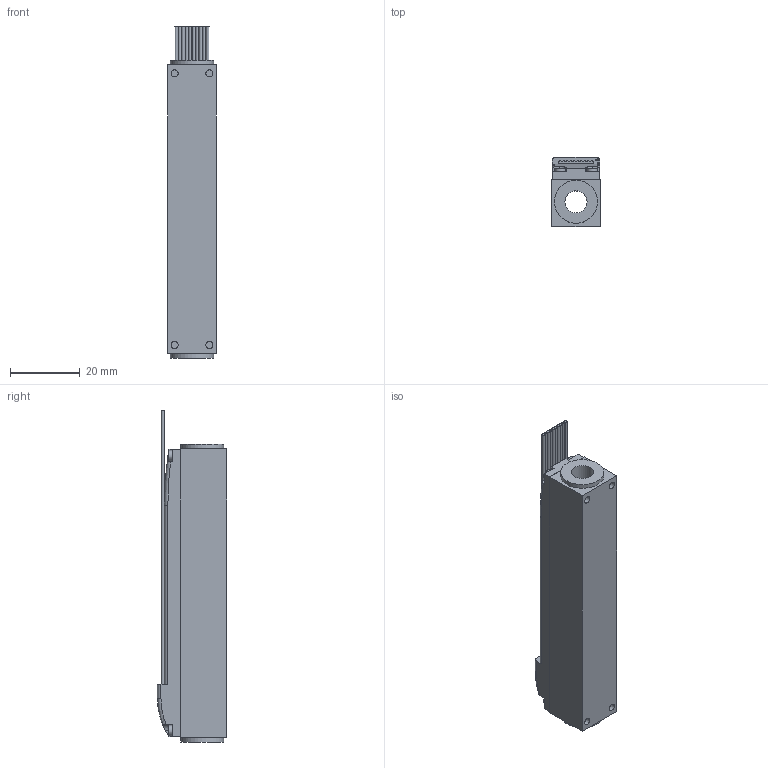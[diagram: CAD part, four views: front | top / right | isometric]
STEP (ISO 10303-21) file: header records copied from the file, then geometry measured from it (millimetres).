
FILE_DESCRIPTION(/* description */ (''),/* implementation_level */ '2;1');
FILE_NAME(/* name */ 'LM1483_1X.stp',/* time_stamp */ '2017-11-06T10:29:47+01:00',/* author */ ('DR. FRITZ FAULHABER GmbH & Co. KG'),/* organization */ ('DR. FRITZ FAULHABER GmbH & Co. KG'),/* preprocessor_version */ 'ST-DEVELOPER v16',/* originating_system */ 'SIEMENS PLM Software NX 10.0',/* authorisation */ '');
FILE_SCHEMA (('AUTOMOTIVE_DESIGN { 1 0 10303 214 3 1 1 1 }'));
Length unit declared in the file: millimetre
Products named in the file (1): Alle_Motoren
Bounding box: 14 x 19.85 x 95.38 mm (x, y, z)
Volume: 18718.1 mm3; surface area: 9515.9 mm2
Topology: 1 solids, 1 shells, 105 faces, 266 edges, 176 vertices
Faces by surface type: plane 60, cylinder 39, torus 4, bspline 2
Full cylindrical faces by diameter (mm): 2.05 x4, 3 x4, 6.4 x1, 12.4 x2
Entity records: 3267 total; most frequent: CARTESIAN_POINT 685, DIRECTION 537, ORIENTED_EDGE 510, EDGE_CURVE 255, AXIS2_PLACEMENT_3D 188, VERTEX_POINT 176, LINE 161, VECTOR 161
